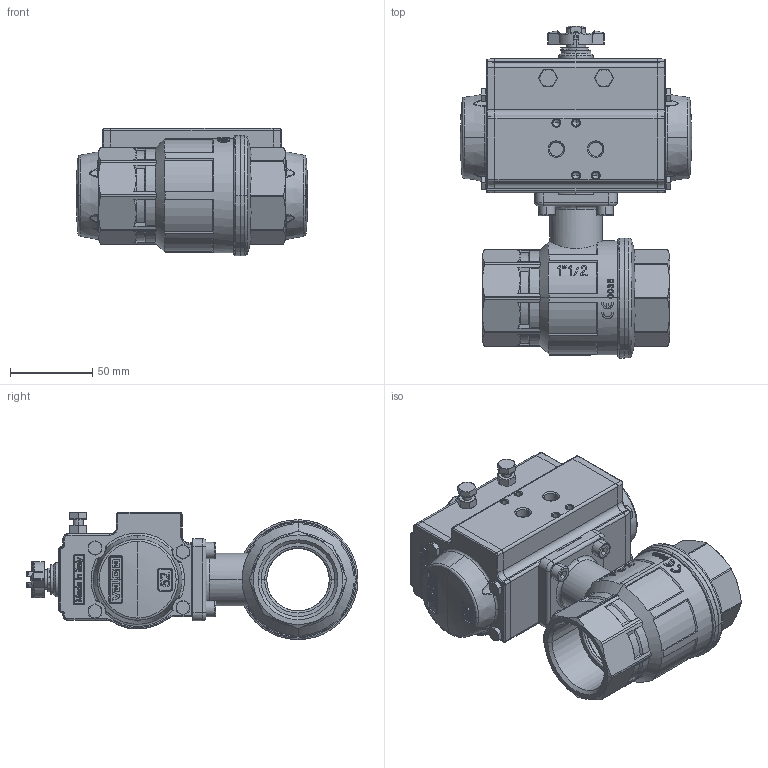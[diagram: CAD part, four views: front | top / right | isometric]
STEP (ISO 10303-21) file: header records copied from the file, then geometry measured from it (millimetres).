
FILE_DESCRIPTION (( 'STEP AP214' ), '1' );
FILE_NAME ('8P00790008.STEP', '2017-03-06T12:48:23', ( 'Bernardelli' ), ( 'Hewlett-Packard Company' ), 'SwSTEP 2.0', 'SolidWorks 2015', '' );
FILE_SCHEMA (( 'AUTOMOTIVE_DESIGN' ));
Length unit declared in the file: millimetre
Products named in the file (1): 8P00790008
Bounding box: 141.02 x 202 x 77.5 mm (x, y, z)
Volume: 836459.7 mm3; surface area: 99320.2 mm2
Topology: 1 solids, 1 shells, 2316 faces, 6274 edges, 4006 vertices
Faces by surface type: plane 1138, bspline 536, cylinder 358, cone 272, torus 8, sphere 4
Entity records: 131928 total; most frequent: CARTESIAN_POINT 66836, ORIENTED_EDGE 12434, DIRECTION 6980, EDGE_CURVE 6217, VERTEX_POINT 4006, B_SPLINE_CURVE_WITH_KNOTS 3189, EDGE_LOOP 2445, AXIS2_PLACEMENT_3D 2371
